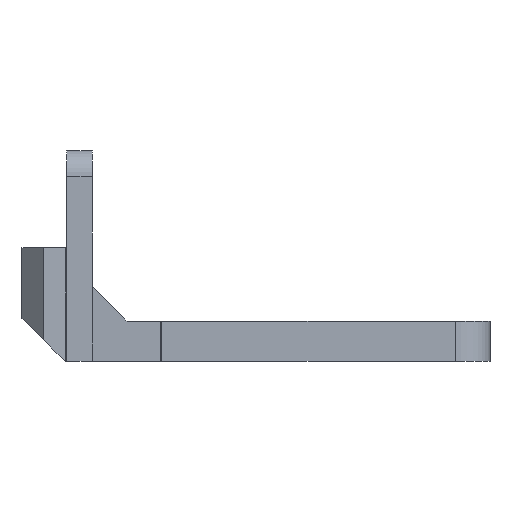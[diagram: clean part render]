
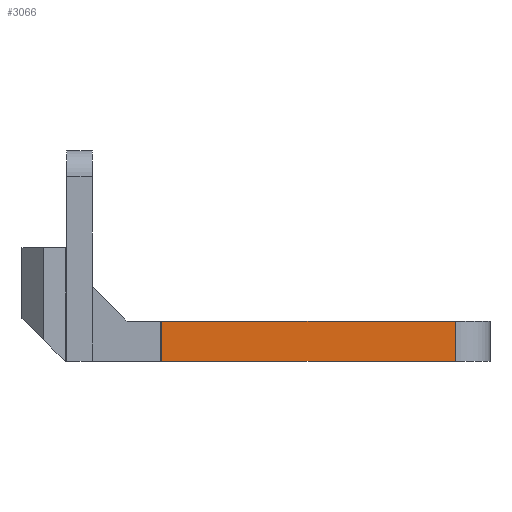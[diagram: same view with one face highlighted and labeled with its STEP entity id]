
A CAD part, front view. The second image highlights one B-rep face of the part: STEP entity #3066.
In plain terms, the highlighted planar face has unit normal (0, -1, 0).
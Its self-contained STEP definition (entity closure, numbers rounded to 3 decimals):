
#125=PLANE('',#3380);
#264=FACE_OUTER_BOUND('',#448,.T.);
#448=EDGE_LOOP('',(#2444,#2445,#2446,#2447));
#696=LINE('',#5001,#992);
#697=LINE('',#5006,#993);
#698=LINE('',#5007,#994);
#699=LINE('',#5008,#995);
#992=VECTOR('',#4026,10.);
#993=VECTOR('',#4031,10.);
#994=VECTOR('',#4032,10.);
#995=VECTOR('',#4033,10.);
#1500=VERTEX_POINT('',#4998);
#1501=VERTEX_POINT('',#5000);
#1502=VERTEX_POINT('',#5004);
#1503=VERTEX_POINT('',#5005);
#1859=EDGE_CURVE('',#1501,#1500,#696,.T.);
#1861=EDGE_CURVE('',#1502,#1503,#697,.T.);
#1862=EDGE_CURVE('',#1502,#1501,#698,.F.);
#1863=EDGE_CURVE('',#1503,#1500,#699,.T.);
#2444=ORIENTED_EDGE('',*,*,#1861,.F.);
#2445=ORIENTED_EDGE('',*,*,#1862,.T.);
#2446=ORIENTED_EDGE('',*,*,#1859,.T.);
#2447=ORIENTED_EDGE('',*,*,#1863,.F.);
#3066=ADVANCED_FACE('',(#264),#125,.T.);
#3380=AXIS2_PLACEMENT_3D('',#5003,#4029,#4030);
#4026=DIRECTION('',(0.,0.,-1.));
#4029=DIRECTION('center_axis',(0.,-1.,0.));
#4030=DIRECTION('ref_axis',(1.,0.,0.));
#4031=DIRECTION('',(0.,0.,-1.));
#4032=DIRECTION('',(1.,0.,0.));
#4033=DIRECTION('',(-1.,0.,0.));
#4998=CARTESIAN_POINT('',(107.15,-21.,-112.124));
#5000=CARTESIAN_POINT('',(107.15,-21.,-107.478));
#5001=CARTESIAN_POINT('',(107.15,-21.,-112.124));
#5003=CARTESIAN_POINT('Origin',(103.15,-21.,-112.124));
#5004=CARTESIAN_POINT('',(141.15,-21.,-107.478));
#5005=CARTESIAN_POINT('',(141.15,-21.,-112.124));
#5006=CARTESIAN_POINT('',(141.15,-21.,-112.124));
#5007=CARTESIAN_POINT('',(122.15,-21.,-107.478));
#5008=CARTESIAN_POINT('',(141.15,-21.,-112.124));
